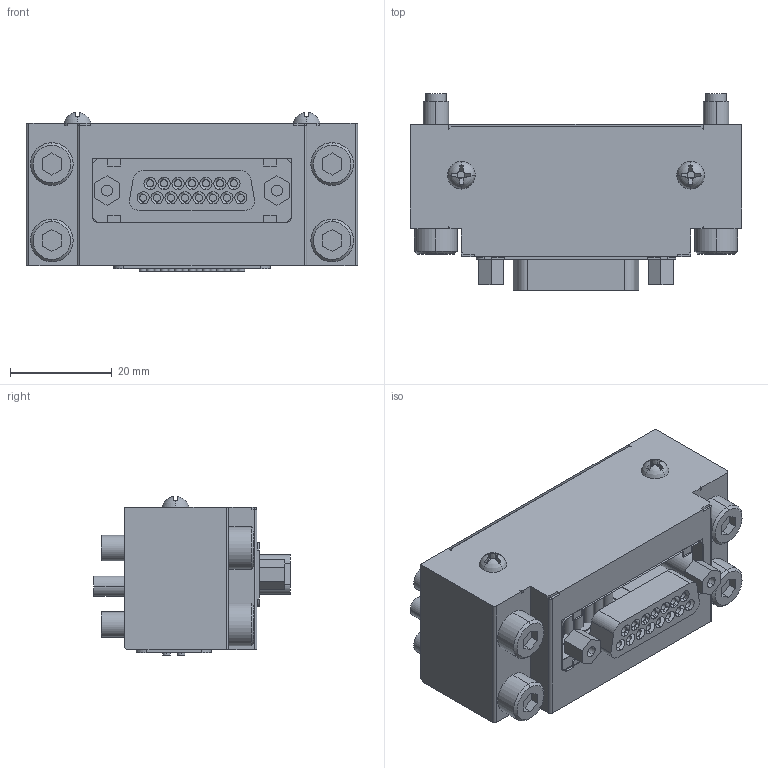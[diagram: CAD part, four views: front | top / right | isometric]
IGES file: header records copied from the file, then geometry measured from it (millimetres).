
Start section: 3D InterOp IGES (v. 2022 1.0.0), Spatial Corp. Copyright (c) 1999-2020.
Global section: file name: KHB-45~300RS-D315C_ver1.igs; native system: Spatial Corp.; preprocessor: 3D InterOp GENERIC/IGES 3.0; author: Noname; organization: Noname; date: 20260427.143603; units: millimetre
Bounding box: 65 x 38.54 x 31.03 mm (x, y, z)
Surface area: 16385.4 mm2 (no closed solid volume)
Topology: 0 solids, 0 shells, 555 faces, 2612 edges, 2582 vertices
Faces by surface type: revolution 283, extrusion 272
